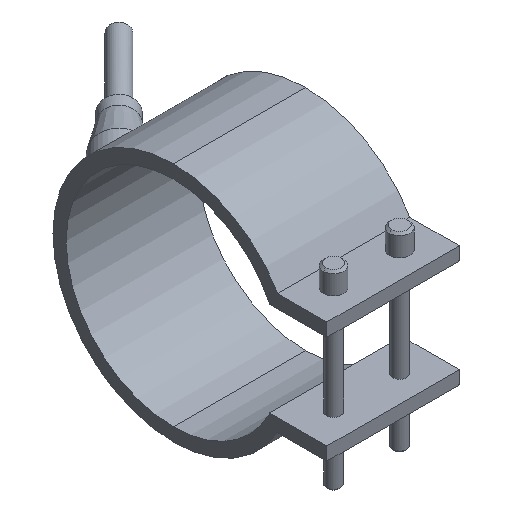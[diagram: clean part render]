
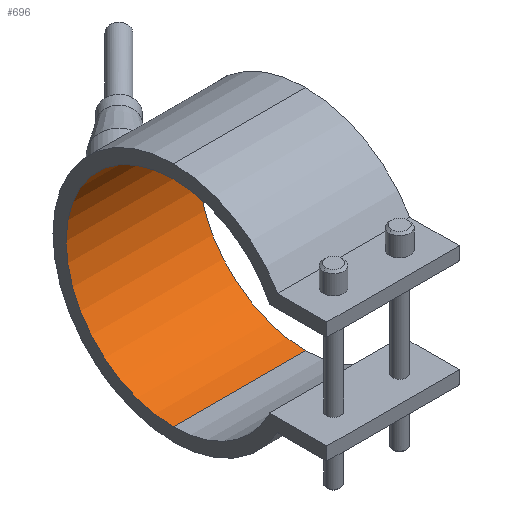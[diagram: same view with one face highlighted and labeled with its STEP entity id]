
A CAD part, isometric view. The second image highlights one B-rep face of the part: STEP entity #696.
In plain terms, the highlighted cylindrical face has radius 32.5 mm (diameter 65 mm), a partial arc.
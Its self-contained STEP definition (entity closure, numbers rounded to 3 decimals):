
#366=CARTESIAN_POINT('Vertex',(20.,0.,32.5)) ;
#371=CARTESIAN_POINT('Axis2P3D Location',(20.,0.,0.)) ;
#375=CARTESIAN_POINT('Vertex',(20.,0.,-32.5)) ;
#482=CARTESIAN_POINT('Vertex',(-20.,0.,-32.5)) ;
#485=CARTESIAN_POINT('Axis2P3D Location',(-20.,0.,0.)) ;
#489=CARTESIAN_POINT('Vertex',(-20.,0.,32.5)) ;
#668=CARTESIAN_POINT('Line Origine',(20.,0.,32.5)) ;
#680=CARTESIAN_POINT('Axis2P3D Location',(20.,0.,0.)) ;
#685=CARTESIAN_POINT('Line Origine',(20.,0.,-32.5)) ;
#372=DIRECTION('Axis2P3D Direction',(1.,0.,0.)) ;
#486=DIRECTION('Axis2P3D Direction',(1.,0.,0.)) ;
#669=DIRECTION('Vector Direction',(1.,0.,0.)) ;
#681=DIRECTION('Axis2P3D Direction',(1.,0.,-0.)) ;
#682=DIRECTION('Axis2P3D XDirection',(0.,0.,-1.)) ;
#686=DIRECTION('Vector Direction',(1.,0.,0.)) ;
#373=AXIS2_PLACEMENT_3D('Circle Axis2P3D',#371,#372,$) ;
#487=AXIS2_PLACEMENT_3D('Circle Axis2P3D',#485,#486,$) ;
#683=AXIS2_PLACEMENT_3D('Cylinder Axis2P3D',#680,#681,#682) ;
#691=ORIENTED_EDGE('',*,*,#377,.T.) ;
#692=ORIENTED_EDGE('',*,*,#672,.T.) ;
#693=ORIENTED_EDGE('',*,*,#491,.F.) ;
#694=ORIENTED_EDGE('',*,*,#689,.T.) ;
#670=VECTOR('Line Direction',#669,1.) ;
#687=VECTOR('Line Direction',#686,1.) ;
#696=ADVANCED_FACE('29065040',(#695),#684,.F.) ;
#374=CIRCLE('generated circle',#373,32.5) ;
#488=CIRCLE('generated circle',#487,32.5) ;
#684=CYLINDRICAL_SURFACE('generated cylinder',#683,32.5) ;
#377=EDGE_CURVE('',#376,#367,#374,.T.) ;
#491=EDGE_CURVE('',#483,#490,#488,.T.) ;
#672=EDGE_CURVE('',#367,#490,#671,.F.) ;
#689=EDGE_CURVE('',#483,#376,#688,.T.) ;
#690=EDGE_LOOP('',(#691,#692,#693,#694)) ;
#695=FACE_OUTER_BOUND('',#690,.T.) ;
#671=LINE('Line',#668,#670) ;
#688=LINE('Line',#685,#687) ;
#367=VERTEX_POINT('',#366) ;
#376=VERTEX_POINT('',#375) ;
#483=VERTEX_POINT('',#482) ;
#490=VERTEX_POINT('',#489) ;
